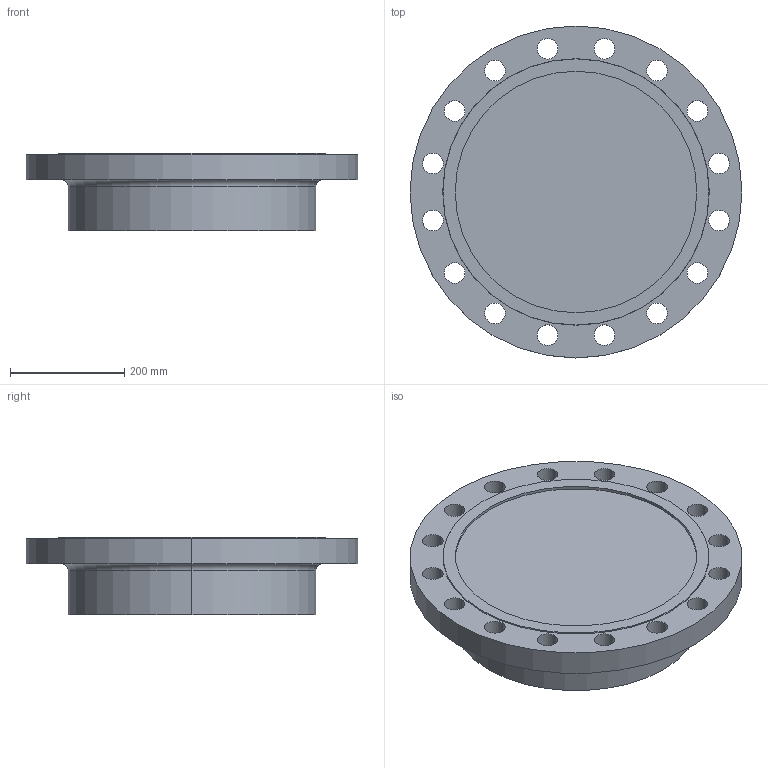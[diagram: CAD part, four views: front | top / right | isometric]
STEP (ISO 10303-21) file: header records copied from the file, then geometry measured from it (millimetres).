
FILE_DESCRIPTION (( 'STEP AP214' ), '1' );
FILE_NAME ('PN40 DN350 Type 21(i) - Type F Face.STEP', '2019-01-05T21:45:48', ( '' ), ( '' ), 'SwSTEP 2.0', 'SolidWorks 2019', '' );
FILE_SCHEMA (( 'AUTOMOTIVE_DESIGN' ));
Length unit declared in the file: millimetre
Products named in the file (1): PN40 DN350 Type 21(i) - Type F Face
Bounding box: 580 x 580 x 135 mm (x, y, z)
Volume: 23636951 mm3; surface area: 778582 mm2
Topology: 1 solids, 1 shells, 47 faces, 124 edges, 82 vertices
Faces by surface type: cylinder 38, plane 5, torus 2, cone 2
Entity records: 1604 total; most frequent: DIRECTION 304, CARTESIAN_POINT 254, ORIENTED_EDGE 248, AXIS2_PLACEMENT_3D 132, EDGE_CURVE 124, CIRCLE 84, VERTEX_POINT 82, EDGE_LOOP 82
